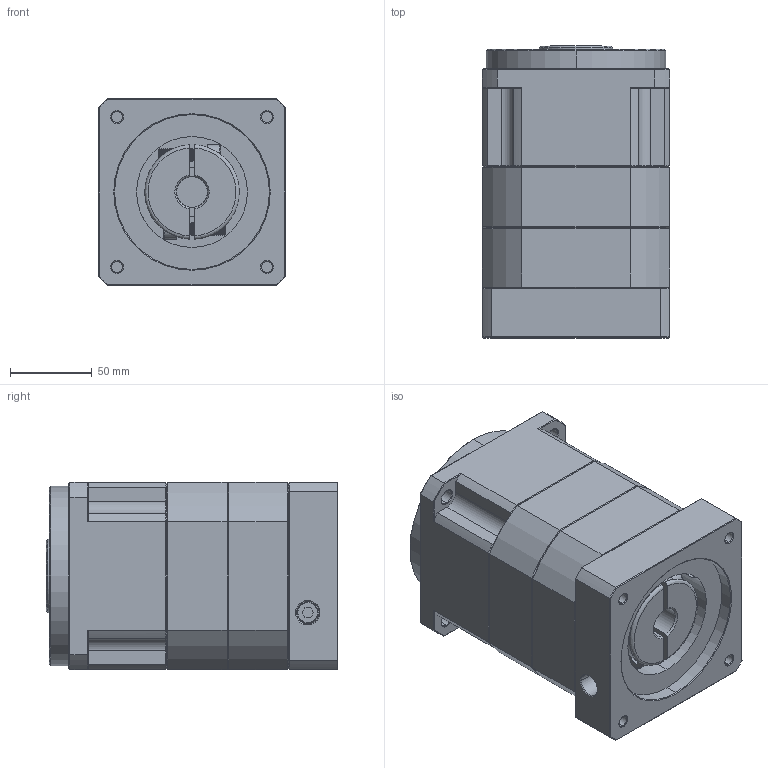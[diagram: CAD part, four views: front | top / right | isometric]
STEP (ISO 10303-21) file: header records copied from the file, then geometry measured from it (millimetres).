
FILE_DESCRIPTION (( 'STEP AP214' ), '1' );
FILE_NAME ('ZPB115-K32-L2-P1-19-95-130-M8.step', '2024-06-12T10:00:13', ( 'Windows 蚚誧' ), ( 'Organization' ), 'SwSTEP 2.0', 'SolidWorks 2016', '' );
FILE_SCHEMA (( 'AUTOMOTIVE_DESIGN' ));
Length unit declared in the file: millimetre
Products named in the file (1): ZPB115-K32-L2-P1-19-95-130-M8
Bounding box: 115 x 179 x 115 mm (x, y, z)
Surface area: 137044.5 mm2 (no closed solid volume)
Topology: 0 solids, 28 shells, 1787 faces, 4815 edges, 3090 vertices
Faces by surface type: plane 925, bspline 374, cone 268, cylinder 220
Entity records: 86178 total; most frequent: CARTESIAN_POINT 37794, ORIENTED_EDGE 9628, DIRECTION 7384, EDGE_CURVE 4815, LINE 3146, VECTOR 3146, VERTEX_POINT 3090, AXIS2_PLACEMENT_3D 2119
